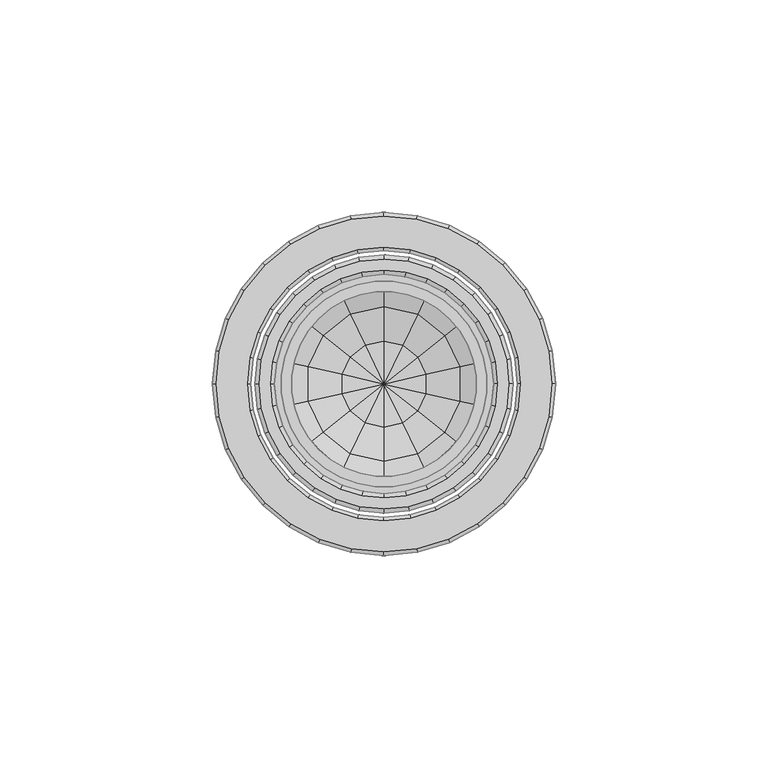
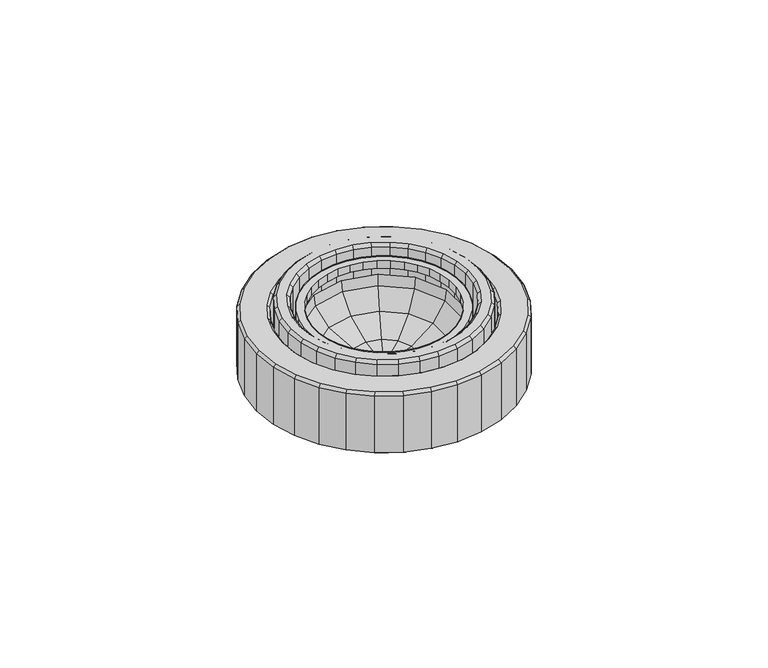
"""IFC4 building model written with IfcOpenShell, lengths in millimetres: light fixture geometry, adsdsdsasdadas : نور وابسته به سطح مخروط."""

from ifc_helpers import new_model, si_unit, origin, place, context, project, spatial, triangles, source, transform, mapped, element, save


def light_fixture_a992c653(model_context):
    return source(origin(), model_context, "Body", "Tessellation", [
        triangles([(24.1398555, -2.1117299, 15.5273052), (24.1398555, 0.0, 15.5273052), (24.1398555, 0.0, 18.0161346), (24.1398555, -2.1117299, 18.0161346), (23.4059724, -6.2713734, 15.5273052), (23.4059724, -6.2713734, 18.0161346), (21.9614095, -10.239569, 15.5273052), (21.9614095, -10.239569, 18.0161346), (19.8467793, -13.8973867, 15.5273052), (19.8467793, -13.8973867, 18.0161346), (17.1374994, -17.1316999, 15.5273052), (17.1374994, -17.1316999, 18.0161346), (13.9002865, -19.8467793, 15.5273052), (13.9002865, -19.8467793, 18.0161346), (10.2424694, -21.9585111, 15.5273052), (10.2424694, -21.9585111, 18.0161346), (6.2742731, -23.4030726, 15.5273052), (6.2742731, -23.4030726, 18.0161346), (2.1146295, -24.1369557, 15.5273052), (2.1146295, -24.1369557, 18.0161346), (-2.1088303, -24.1369557, 15.5273052), (-2.1088303, -24.1369557, 18.0161346), (-6.2713747, -23.4030726, 15.5273052), (-6.2713747, -23.4030726, 18.0161346), (-10.2395703, -21.9585111, 15.5273052), (-10.2395703, -21.9585111, 18.0161346), (-13.8944883, -19.8467793, 15.5273052), (-13.8944883, -19.8467793, 18.0161346), (-17.1345996, -17.1316999, 15.5273052), (-17.1345996, -17.1316999, 18.0161346), (-19.8438796, -13.8973867, 15.5273052), (-19.8438796, -13.8973867, 18.0161346), (-21.9585124, -10.239569, 15.5273052), (-21.9585124, -10.239569, 18.0161346), (-23.4030739, -6.2713734, 15.5273052), (-23.4030739, -6.2713734, 18.0161346), (-24.136957, -2.1117299, 15.5273052), (-24.136957, -2.1117299, 18.0161346), (-24.136957, 0.0, 15.5273052), (-24.136957, 0.0, 18.0161346), (-24.136957, 2.1117301, 15.5273052), (-24.136957, 2.1117301, 18.0161346), (-23.4030739, 6.2713734, 15.5273052), (-23.4030739, 6.2713734, 18.0161346), (-21.9585124, 10.239569, 15.5273052), (-21.9585124, 10.239569, 18.0161346), (-19.8438796, 13.8973867, 15.5273052), (-19.8438796, 13.8973867, 18.0161346), (-17.1345996, 17.1345983, 15.5273052), (-17.1345996, 17.1345983, 18.0161346), (-13.8944883, 19.8496817, 15.5273052), (-13.8944883, 19.8496817, 18.0161346), (-10.2395703, 21.9614108, 15.5273052), (-10.2395703, 21.9614108, 18.0161346), (-6.2713747, 23.4059737, 15.5273052), (-6.2713747, 23.4059737, 18.0161346), (-2.1088303, 24.1369557, 15.5273052), (-2.1088303, 24.1369557, 18.0161346), (2.1146295, 24.1369557, 15.5273052), (2.1146295, 24.1369557, 18.0161346), (6.2742731, 23.4059737, 15.5273052), (6.2742731, 23.4059737, 18.0161346), (10.2424694, 21.9614108, 15.5273052), (10.2424694, 21.9614108, 18.0161346), (13.9002865, 19.8496817, 15.5273052), (13.9002865, 19.8496817, 18.0161346), (17.1374994, 17.1345983, 15.5273052), (17.1374994, 17.1345983, 18.0161346), (19.8467793, 13.8973867, 15.5273052), (19.8467793, 13.8973867, 18.0161346), (21.9614095, 10.239569, 15.5273052), (21.9614095, 10.239569, 18.0161346), (23.4059724, 6.2713734, 15.5273052), (23.4059724, 6.2713734, 18.0161346), (24.1398555, 2.1117301, 15.5273052), (24.1398555, 2.1117301, 18.0161346), (-21.7206503, -1.8999767, 15.5273052), (-21.7206503, 0.0, 15.5273052), (-21.7206503, 0.0, 18.0161346), (-21.7206503, -1.8999767, 18.0161346), (-21.0621874, -5.6448163, 15.5273052), (-21.0621874, -5.6448163, 18.0161346), (-19.7626599, -9.2156123, 15.5273052), (-19.7626599, -9.2156123, 18.0161346), (-17.8597835, -12.5079391, 15.5273052), (-17.8597835, -12.5079391, 18.0161346), (-15.4173697, -15.4202695, 15.5273052), (-15.4173697, -15.4202695, 18.0161346), (-12.5079391, -17.8626832, 15.5273052), (-12.5079391, -17.8626832, 18.0161346), (-9.2156136, -19.7626586, 15.5273052), (-9.2156136, -19.7626586, 18.0161346), (-5.6419169, -21.062186, 15.5273052), (-5.6419169, -21.062186, 18.0161346), (-1.8999779, -21.7235514, 15.5273052), (-1.8999779, -21.7235514, 18.0161346), (1.9028763, -21.7235514, 15.5273052), (1.9028763, -21.7235514, 18.0161346), (5.6477161, -21.062186, 15.5273052), (5.6477161, -21.062186, 18.0161346), (9.2156117, -19.7626586, 15.5273052), (9.2156117, -19.7626586, 18.0161346), (12.5108389, -17.8626832, 15.5273052), (12.5108389, -17.8626832, 18.0161346), (15.4231692, -15.4202695, 15.5273052), (15.4231692, -15.4202695, 18.0161346), (17.8655817, -12.5079391, 15.5273052), (17.8655817, -12.5079391, 18.0161346), (19.7655584, -9.2156123, 15.5273052), (19.7655584, -9.2156123, 18.0161346), (21.0621847, -5.6448163, 15.5273052), (21.0621847, -5.6448163, 18.0161346), (21.7264512, -1.8999767, 15.5273052), (21.7264512, -1.8999767, 18.0161346), (21.7264512, 0.0, 15.5273052), (21.7264512, 0.0, 18.0161346), (21.7264512, 1.8999767, 15.5273052), (21.7264512, 1.8999767, 18.0161346), (21.0621847, 5.6448163, 15.5273052), (21.0621847, 5.6448163, 18.0161346), (19.7655584, 9.2156123, 15.5273052), (19.7655584, 9.2156123, 18.0161346), (17.8655817, 12.5079391, 15.5273052), (17.8655817, 12.5079391, 18.0161346), (15.4231692, 15.4202695, 15.5273052), (15.4231692, 15.4202695, 18.0161346), (12.5108389, 17.8626832, 15.5273052), (12.5108389, 17.8626832, 18.0161346), (9.2156117, 19.7655597, 15.5273052), (9.2156117, 19.7655597, 18.0161346), (5.6477161, 21.0650858, 15.5273052), (5.6477161, 21.0650858, 18.0161346), (1.9028763, 21.7235514, 15.5273052), (1.9028763, 21.7235514, 18.0161346), (-1.8999779, 21.7235514, 15.5273052), (-1.8999779, 21.7235514, 18.0161346), (-5.6419169, 21.0650858, 15.5273052), (-5.6419169, 21.0650858, 18.0161346), (-9.2156136, 19.7655597, 15.5273052), (-9.2156136, 19.7655597, 18.0161346), (-12.5079391, 17.8626832, 15.5273052), (-12.5079391, 17.8626832, 18.0161346), (-15.4173697, 15.4202695, 15.5273052), (-15.4173697, 15.4202695, 18.0161346), (-17.8597835, 12.5079391, 15.5273052), (-17.8597835, 12.5079391, 18.0161346), (-19.7626599, 9.2156123, 15.5273052), (-19.7626599, 9.2156123, 18.0161346), (-21.0621874, 5.6448163, 15.5273052), (-21.0621874, 5.6448163, 18.0161346), (-21.7206503, 1.8999767, 15.5273052), (-21.7206503, 1.8999767, 18.0161346), (0.0028996, -30.3909285, 19.8175815), (0.0028996, -30.3909285, -3.0895647), (5.9319875, -29.8078804, -3.0895647), (5.9319875, -29.8078804, 19.8175815), (0.0028996, -25.799073, -3.0895647), (0.0028996, -25.799073, 19.8175815), (5.0356628, -25.3030493, 19.8175815), (5.0356628, -25.3030493, -3.0895647), (0.0028996, -26.7795214, 20.7950988), (0.0028996, -29.4133812, 20.7950988), (5.7405394, -28.8477396, 20.7950988), (5.2271105, -26.2660912, 20.7950988), (11.6319177, -28.0790462, -3.0895647), (11.6319177, -28.0790462, 19.8175815), (9.8740766, -23.8352805, 19.8175815), (9.8740766, -23.8352805, -3.0895647), (11.2577234, -27.1740179, 20.7950988), (10.2511713, -24.7403087, 20.7950988), (16.888037, -25.2711427, -3.0895647), (16.888037, -25.2711427, 19.8175815), (14.3353955, -21.4508817, 19.8175815), (14.3353955, -21.4508817, -3.0895647), (16.3426989, -24.4560374, 20.7950988), (14.8807336, -22.2659871, 20.7950988), (21.4914915, -21.4914929, -3.0895647), (21.4914915, -21.4914929, 19.8175815), (18.2455781, -18.242677, 19.8175815), (18.2455781, -18.242677, -3.0895647), (20.7982183, -20.7982196, 20.7950988), (18.9388513, -18.9359529, 20.7950988), (25.2711414, -16.8851359, -3.0895647), (25.2711414, -16.8851359, 19.8175815), (21.4537828, -14.332497, 19.8175815), (21.4537828, -14.332497, -3.0895647), (24.456036, -16.3398005, 20.7950988), (22.2688869, -14.8778338, 20.7950988), (28.0819459, -11.631919, -3.0895647), (28.0819459, -11.631919, 19.8175815), (23.8381802, -9.8740779, 19.8175815), (23.8381802, -9.8740779, -3.0895647), (27.1740166, -11.254825, 20.7950988), (24.7432085, -10.2482715, 20.7950988), (29.8107775, -5.9290877, -3.0895647), (29.8107775, -5.9290877, 19.8175815), (25.3059491, -5.032763, 19.8175815), (25.3059491, -5.032763, -3.0895647), (28.8477383, -5.7376396, 20.7950988), (26.2660899, -5.2242108, 20.7950988), (30.393823, 0.0, -3.0895647), (30.393823, 0.0, 19.8175815), (25.8019728, 0.0, 19.8175815), (25.8019728, 0.0, -3.0895647), (29.4133826, 0.0, 20.7950988), (26.7824212, 0.0, 20.7950988), (29.8107775, 5.9290877, -3.0895647), (29.8107775, 5.9290877, 19.8175815), (25.3059491, 5.032763, 19.8175815), (25.3059491, 5.032763, -3.0895647), (28.8477383, 5.7376396, 20.7950988), (26.2660899, 5.2242108, 20.7950988), (28.0819459, 11.631919, -3.0895647), (28.0819459, 11.631919, 19.8175815), (23.8381802, 9.8740779, 19.8175815), (23.8381802, 9.8740779, -3.0895647), (27.1740166, 11.254825, 20.7950988), (24.7432085, 10.2482715, 20.7950988), (25.2711414, 16.8851359, -3.0895647), (25.2711414, 16.8851359, 19.8175815), (21.4537828, 14.332497, 19.8175815), (21.4537828, 14.332497, -3.0895647), (24.456036, 16.3398005, 20.7950988), (22.2688869, 14.8778338, 20.7950988), (21.4914915, 21.4914929, -3.0895647), (21.4914915, 21.4914929, 19.8175815), (18.2455781, 18.242677, 19.8175815), (18.2455781, 18.242677, -3.0895647), (20.7982183, 20.7982196, 20.7950988), (18.9388513, 18.9359529, 20.7950988), (16.888037, 25.2711427, -3.0895647), (16.888037, 25.2711427, 19.8175815), (14.3353955, 21.4508817, 19.8175815), (14.3353955, 21.4508817, -3.0895647), (16.3426989, 24.4560374, 20.7950988), (14.8807336, 22.2659871, 20.7950988), (11.6319177, 28.0790462, -3.0895647), (11.6319177, 28.0790462, 19.8175815), (9.8740766, 23.8352805, 19.8175815), (9.8740766, 23.8352805, -3.0895647), (11.2577234, 27.1740179, 20.7950988), (10.2511713, 24.7403087, 20.7950988), (5.9319875, 29.8078804, -3.0895647), (5.9319875, 29.8078804, 19.8175815), (5.0356628, 25.3030493, 19.8175815), (5.0356628, 25.3030493, -3.0895647), (5.7405394, 28.8477396, 20.7950988), (5.2271105, 26.2660912, 20.7950988), (0.0028996, 30.3938243, -3.0895647), (0.0028996, 30.3938243, 19.8175815), (0.0028996, 25.799073, 19.8175815), (0.0028996, 25.799073, -3.0895647), (0.0028996, 29.4133812, 20.7950988), (0.0028996, 26.7795214, 20.7950988), (-5.9261879, 29.8078804, -3.0895647), (-5.9261879, 29.8078804, 19.8175815), (-5.032764, 25.3030493, 19.8175815), (-5.032764, 25.3030493, -3.0895647), (-5.7347399, 28.8477396, 20.7950988), (-5.2213117, 26.2660912, 20.7950988), (-11.6290192, 28.0790462, -3.0895647), (-11.6290192, 28.0790462, 19.8175815), (-9.8711782, 23.8352805, 19.8175815), (-9.8711782, 23.8352805, -3.0895647), (-11.254825, 27.1740179, 20.7950988), (-10.2453718, 24.7403087, 20.7950988), (-16.8822375, 25.2711427, -3.0895647), (-16.8822375, 25.2711427, 19.8175815), (-14.3324984, 21.4508817, 19.8175815), (-14.3324984, 21.4508817, -3.0895647), (-16.3398018, 24.4560374, 20.7950988), (-14.8749327, 22.2659871, 20.7950988), (-21.4885944, 21.4914929, -3.0895647), (-21.4885944, 21.4914929, 19.8175815), (-18.2426783, 18.242677, 19.8175815), (-18.2426783, 18.242677, -3.0895647), (-20.7953185, 20.7982196, 20.7950988), (-18.9330518, 18.9359529, 20.7950988), (-25.268243, 16.8851359, -3.0895647), (-25.268243, 16.8851359, 19.8175815), (-21.450883, 14.332497, 19.8175815), (-21.450883, 14.332497, -3.0895647), (-24.4531376, 16.3398005, 20.7950988), (-22.2659884, 14.8778338, 20.7950988), (-28.0761464, 11.631919, -3.0895647), (-28.0761464, 11.631919, 19.8175815), (-23.8352818, 9.8740779, 19.8175815), (-23.8352818, 9.8740779, -3.0895647), (-27.1711182, 11.254825, 20.7950988), (-24.7403101, 10.2482715, 20.7950988), (-29.8078817, 5.9290877, -3.0895647), (-29.8078817, 5.9290877, 19.8175815), (-25.3030506, 5.032763, 19.8175815), (-25.3030506, 5.032763, -3.0895647), (-28.8448398, 5.7376396, 20.7950988), (-26.2631915, 5.2242108, 20.7950988), (-30.3909299, 0.0, -3.0895647), (-30.3909299, 0.0, 19.8175815), (-25.7990744, 0.0, 19.8175815), (-25.7990744, 0.0, -3.0895647), (-29.4104815, 0.0, 20.7950988), (-26.7795201, 0.0, 20.7950988), (-29.8078817, -5.9290877, -3.0895647), (-29.8078817, -5.9290877, 19.8175815), (-25.3030506, -5.032763, 19.8175815), (-25.3030506, -5.032763, -3.0895647), (-28.8448398, -5.7376396, 20.7950988), (-26.2631915, -5.2242108, 20.7950988), (-28.0761464, -11.631919, -3.0895647), (-28.0761464, -11.631919, 19.8175815), (-23.8352818, -9.8740779, 19.8175815), (-23.8352818, -9.8740779, -3.0895647), (-27.1711182, -11.254825, 20.7950988), (-24.7403101, -10.2482715, 20.7950988), (-25.268243, -16.8851359, -3.0895647), (-25.268243, -16.8851359, 19.8175815), (-21.450883, -14.332497, 19.8175815), (-21.450883, -14.332497, -3.0895647), (-24.4531376, -16.3398005, 20.7950988), (-22.2659884, -14.8778338, 20.7950988), (-21.4885944, -21.4914929, -3.0895647), (-21.4885944, -21.4914929, 19.8175815), (-18.2426783, -18.242677, 19.8175815), (-18.2426783, -18.242677, -3.0895647), (-20.7953185, -20.7982196, 20.7950988), (-18.9330518, -18.9359529, 20.7950988), (-16.8822375, -25.2711427, -3.0895647), (-16.8822375, -25.2711427, 19.8175815), (-14.3324984, -21.4508817, 19.8175815), (-14.3324984, -21.4508817, -3.0895647), (-16.3398018, -24.4560374, 20.7950988), (-14.8749327, -22.2659871, 20.7950988), (-11.6290192, -28.0790462, -3.0895647), (-11.6290192, -28.0790462, 19.8175815), (-9.8711782, -23.8352805, 19.8175815), (-9.8711782, -23.8352805, -3.0895647), (-11.254825, -27.1740179, 20.7950988), (-10.2453718, -24.7403087, 20.7950988), (-5.9261879, -29.8078804, -3.0895647), (-5.9261879, -29.8078804, 19.8175815), (-5.032764, -25.3030493, 19.8175815), (-5.032764, -25.3030493, -3.0895647), (-5.7347399, -28.8477396, 20.7950988), (-5.2213117, -26.2660912, 20.7950988), (-1.1e-06, -40.4071408, 16.2642607), (-1.1e-06, -40.4071408, -2.6717357), (7.8841777, -39.6326453, -2.6717357), (7.8841777, -39.6326453, 16.2642607), (-1.1e-06, -39.5311207, -3.0895647), (-1.1e-06, -32.2009824, -3.0895647), (6.2829757, -31.583124, -3.0895647), (7.7130338, -38.7711279, -3.0895647), (-1.1e-06, -31.3539652, -2.248152), (-1.1e-06, -31.3539652, 16.2642607), (6.117634, -30.7535158, 16.2642607), (6.117634, -30.7535158, -2.248152), (-1.1e-06, -32.2009824, 17.1083291), (-1.1e-06, -39.5311207, 17.1083291), (7.7130338, -38.7711279, 17.1083291), (6.2829757, -31.583124, 17.1083291), (15.4637791, -37.3323672, -2.6717357), (15.4637791, -37.3323672, 16.2642607), (12.3222912, -29.7498641, -3.0895647), (15.1272949, -36.523064, -3.0895647), (12.0003111, -28.966668, 16.2642607), (12.0003111, -28.966668, -2.248152), (15.1272949, -36.523064, 17.1083291), (12.3222912, -29.7498641, 17.1083291), (22.44873, -33.5991333, -2.6717357), (22.44873, -33.5991333, 16.2642607), (17.8916887, -26.7766177, -3.0895647), (21.9614095, -32.8681486, -3.0895647), (17.4188697, -26.0717427, 16.2642607), (17.4188697, -26.0717427, -2.248152), (21.9614095, -32.8681486, 17.1083291), (17.8916887, -26.7766177, 17.1083291), (28.5721701, -28.5721688, -2.6717357), (28.5721701, -28.5721688, 16.2642607), (22.7707127, -22.770714, -3.0895647), (27.9543143, -27.9514146, -3.0895647), (22.1702608, -22.1702621, 16.2642607), (22.1702608, -22.1702621, -2.248152), (27.9543143, -27.9514146, 17.1083291), (22.7707127, -22.770714, 17.1083291), (33.599132, -22.4487313, -2.6717357), (33.599132, -22.4487313, 16.2642607), (26.776619, -17.89169, -3.0895647), (32.8681473, -21.9614108, -3.0895647), (26.0717414, -17.418871, 16.2642607), (26.0717414, -17.418871, -2.248152), (32.8681473, -21.9614108, 17.1083291), (26.776619, -17.89169, 17.1083291), (37.3323659, -15.4637804, -2.6717357), (37.3323659, -15.4637804, 16.2642607), (29.7498628, -12.3222925, -3.0895647), (36.5230627, -15.1272962, -3.0895647), (28.9695677, -12.0003111, 16.2642607), (28.9695677, -12.0003111, -2.248152), (36.5230627, -15.1272962, 17.1083291), (29.7498628, -12.3222925, 17.1083291), (39.632644, -7.884179, -2.6717357), (39.632644, -7.884179, 16.2642607), (31.5831226, -6.2829764, -3.0895647), (38.7711266, -7.7130352, -3.0895647), (30.7535145, -6.1176347, 16.2642607), (30.7535145, -6.1176347, -2.248152), (38.7711266, -7.7130352, 17.1083291), (31.5831226, -6.2829764, 17.1083291), (40.4071395, 0.0, -2.6717357), (40.4071395, 0.0, 16.2642607), (32.2038822, 0.0, -3.0895647), (39.5311194, 0.0, -3.0895647), (31.3539665, 0.0, 16.2642607), (31.3539665, 0.0, -2.248152), (39.5311194, 0.0, 17.1083291), (32.2038822, 0.0, 17.1083291), (39.632644, 7.884179, -2.6717357), (39.632644, 7.884179, 16.2642607), (31.5831226, 6.2829764, -3.0895647), (38.7711266, 7.7130352, -3.0895647), (30.7535145, 6.1176347, 16.2642607), (30.7535145, 6.1176347, -2.248152), (38.7711266, 7.7130352, 17.1083291), (31.5831226, 6.2829764, 17.1083291), (37.3323659, 15.4637804, -2.6717357), (37.3323659, 15.4637804, 16.2642607), (29.7498628, 12.3222925, -3.0895647), (36.5230627, 15.1272962, -3.0895647), (28.9695677, 12.0003111, 16.2642607), (28.9695677, 12.0003111, -2.248152), (36.5230627, 15.1272962, 17.1083291), (29.7498628, 12.3222925, 17.1083291), (33.599132, 22.4487313, -2.6717357), (33.599132, 22.4487313, 16.2642607), (26.776619, 17.89169, -3.0895647), (32.8681473, 21.9614108, -3.0895647), (26.0717414, 17.418871, 16.2642607), (26.0717414, 17.418871, -2.248152), (32.8681473, 21.9614108, 17.1083291), (26.776619, 17.89169, 17.1083291), (28.5721701, 28.5721714, -2.6717357), (28.5721701, 28.5721714, 16.2642607), (22.7707127, 22.770714, -3.0895647), (27.9543143, 27.9543156, -3.0895647), (22.1702608, 22.1702621, 16.2642607), (22.1702608, 22.1702621, -2.248152), (27.9543143, 27.9543156, 17.1083291), (22.7707127, 22.770714, 17.1083291), (22.44873, 33.5991333, -2.6717357), (22.44873, 33.5991333, 16.2642607), (17.8916887, 26.7766203, -3.0895647), (21.9614095, 32.8681486, -3.0895647), (17.4188697, 26.0717427, 16.2642607), (17.4188697, 26.0717427, -2.248152), (21.9614095, 32.8681486, 17.1083291), (17.8916887, 26.7766203, 17.1083291), (15.4637791, 37.3323672, -2.6717357), (15.4637791, 37.3323672, 16.2642607), (12.3222912, 29.7527652, -3.0895647), (15.1272949, 36.523064, -3.0895647), (12.0003111, 28.969569, 16.2642607), (12.0003111, 28.969569, -2.248152), (15.1272949, 36.523064, 17.1083291), (12.3222912, 29.7527652, 17.1083291), (7.8841777, 39.6326453, -2.6717357), (7.8841777, 39.6326453, 16.2642607), (6.2829757, 31.583124, -3.0895647), (7.7130338, 38.7711279, -3.0895647), (6.117634, 30.7535158, 16.2642607), (6.117634, 30.7535158, -2.248152), (7.7130338, 38.7711279, 17.1083291), (6.2829757, 31.583124, 17.1083291), (-1.1e-06, 40.4071408, -2.6717357), (-1.1e-06, 40.4071408, 16.2642607), (-1.1e-06, 32.2038835, -3.0895647), (-1.1e-06, 39.5311207, -3.0895647), (-1.1e-06, 31.3539652, 16.2642607), (-1.1e-06, 31.3539652, -2.248152), (-1.1e-06, 39.5311207, 17.1083291), (-1.1e-06, 32.2038835, 17.1083291), (-7.8841796, 39.6326453, -2.6717357), (-7.8841796, 39.6326453, 16.2642607), (-6.2829777, 31.583124, -3.0895647), (-7.7130358, 38.7711279, -3.0895647), (-6.117636, 30.7535158, 16.2642607), (-6.117636, 30.7535158, -2.248152), (-7.7130358, 38.7711279, 17.1083291), (-6.2829777, 31.583124, 17.1083291), (-15.4637817, 37.3323672, -2.6717357), (-15.4637817, 37.3323672, 16.2642607), (-12.3222938, 29.7527652, -3.0895647), (-15.1272962, 36.523064, -3.0895647), (-12.0003124, 28.969569, 16.2642607), (-12.0003124, 28.969569, -2.248152), (-15.1272962, 36.523064, 17.1083291), (-12.3222938, 29.7527652, 17.1083291), (-22.4487326, 33.5991333, -2.6717357), (-22.4487326, 33.5991333, 16.2642607), (-17.8916914, 26.7766203, -3.0895647), (-21.9614121, 32.8681486, -3.0895647), (-17.4188723, 26.0717427, 16.2642607), (-17.4188723, 26.0717427, -2.248152), (-21.9614121, 32.8681486, 17.1083291), (-17.8916914, 26.7766203, 17.1083291), (-28.5721701, 28.5721714, -2.6717357), (-28.5721701, 28.5721714, 16.2642607), (-22.7707154, 22.770714, -3.0895647), (-27.954317, 27.9543156, -3.0895647), (-22.1702634, 22.1702621, 16.2642607), (-22.1702634, 22.1702621, -2.248152), (-27.954317, 27.9543156, 17.1083291), (-22.7707154, 22.770714, 17.1083291), (-33.5991346, 22.4487313, -2.6717357), (-33.5991346, 22.4487313, 16.2642607), (-26.776619, 17.89169, -3.0895647), (-32.8681499, 21.9614108, -3.0895647), (-26.071744, 17.418871, 16.2642607), (-26.071744, 17.418871, -2.248152), (-32.8681499, 21.9614108, 17.1083291), (-26.776619, 17.89169, 17.1083291), (-37.3323686, 15.4637804, -2.6717357), (-37.3323686, 15.4637804, 16.2642607), (-29.7498654, 12.3222925, -3.0895647), (-36.5230653, 15.1272962, -3.0895647), (-28.9695704, 12.0003111, 16.2642607), (-28.9695704, 12.0003111, -2.248152), (-36.5230653, 15.1272962, 17.1083291), (-29.7498654, 12.3222925, 17.1083291), (-39.6326466, 7.884179, -2.6717357), (-39.6326466, 7.884179, 16.2642607), (-31.5831253, 6.2829764, -3.0895647), (-38.7711293, 7.7130352, -3.0895647), (-30.7535172, 6.1176347, 16.2642607), (-30.7535172, 6.1176347, -2.248152), (-38.7711293, 7.7130352, 17.1083291), (-31.5831253, 6.2829764, 17.1083291), (-40.4071395, 0.0, -2.6717357), (-40.4071395, 0.0, 16.2642607), (-32.2038822, 0.0, -3.0895647), (-39.5311221, 0.0, -3.0895647), (-31.3539665, 0.0, 16.2642607), (-31.3539665, 0.0, -2.248152), (-39.5311221, 0.0, 17.1083291), (-32.2038822, 0.0, 17.1083291), (-39.6326466, -7.884179, -2.6717357), (-39.6326466, -7.884179, 16.2642607), (-31.5831253, -6.2829764, -3.0895647), (-38.7711293, -7.7130352, -3.0895647), (-30.7535172, -6.1176347, 16.2642607), (-30.7535172, -6.1176347, -2.248152), (-38.7711293, -7.7130352, 17.1083291), (-31.5831253, -6.2829764, 17.1083291), (-37.3323686, -15.4637804, -2.6717357), (-37.3323686, -15.4637804, 16.2642607), (-29.7498654, -12.3222925, -3.0895647), (-36.5230653, -15.1272962, -3.0895647), (-28.9695704, -12.0003111, 16.2642607), (-28.9695704, -12.0003111, -2.248152), (-36.5230653, -15.1272962, 17.1083291), (-29.7498654, -12.3222925, 17.1083291), (-33.5991346, -22.4487313, -2.6717357), (-33.5991346, -22.4487313, 16.2642607), (-26.776619, -17.89169, -3.0895647), (-32.8681499, -21.9614108, -3.0895647), (-26.071744, -17.418871, 16.2642607), (-26.071744, -17.418871, -2.248152), (-32.8681499, -21.9614108, 17.1083291), (-26.776619, -17.89169, 17.1083291), (-28.5721701, -28.5721688, -2.6717357), (-28.5721701, -28.5721688, 16.2642607), (-22.7707154, -22.770714, -3.0895647), (-27.954317, -27.9514146, -3.0895647), (-22.1702634, -22.1702621, 16.2642607), (-22.1702634, -22.1702621, -2.248152), (-27.954317, -27.9514146, 17.1083291), (-22.7707154, -22.770714, 17.1083291), (-22.4487326, -33.5991333, -2.6717357), (-22.4487326, -33.5991333, 16.2642607), (-17.8916914, -26.7766177, -3.0895647), (-21.9614121, -32.8681486, -3.0895647), (-17.4188723, -26.0717427, 16.2642607), (-17.4188723, -26.0717427, -2.248152), (-21.9614121, -32.8681486, 17.1083291), (-17.8916914, -26.7766177, 17.1083291), (-15.4637817, -37.3323672, -2.6717357), (-15.4637817, -37.3323672, 16.2642607), (-12.3222938, -29.7498641, -3.0895647), (-15.1272962, -36.523064, -3.0895647), (-12.0003124, -28.966668, 16.2642607), (-12.0003124, -28.966668, -2.248152), (-15.1272962, -36.523064, 17.1083291), (-12.3222938, -29.7498641, 17.1083291), (-7.8841796, -39.6326453, -2.6717357), (-7.8841796, -39.6326453, 16.2642607), (-6.2829777, -31.583124, -3.0895647), (-7.7130358, -38.7711279, -3.0895647), (-6.117636, -30.7535158, 16.2642607), (-6.117636, -30.7535158, -2.248152), (-7.7130358, -38.7711279, 17.1083291), (-6.2829777, -31.583124, 17.1083291)], [[1, 2, 3], [1, 3, 4], [5, 1, 4], [5, 4, 6], [7, 5, 6], [7, 6, 8], [9, 7, 8], [9, 8, 10], [11, 9, 10], [11, 10, 12], [13, 11, 12], [13, 12, 14], [15, 13, 14], [15, 14, 16], [17, 15, 16], [17, 16, 18], [19, 17, 18], [19, 18, 20], [21, 19, 20], [21, 20, 22], [23, 21, 22], [23, 22, 24], [25, 23, 24], [25, 24, 26], [27, 25, 26], [27, 26, 28], [29, 27, 28], [29, 28, 30], [31, 29, 30], [31, 30, 32], [33, 31, 32], [33, 32, 34], [35, 33, 34], [35, 34, 36], [37, 35, 36], [37, 36, 38], [39, 37, 38], [39, 38, 40], [41, 39, 40], [41, 40, 42], [43, 41, 42], [43, 42, 44], [45, 43, 44], [45, 44, 46], [47, 45, 46], [47, 46, 48], [49, 47, 48], [49, 48, 50], [51, 49, 50], [51, 50, 52], [53, 51, 52], [53, 52, 54], [55, 53, 54], [55, 54, 56], [57, 55, 56], [57, 56, 58], [59, 57, 58], [59, 58, 60], [61, 59, 60], [61, 60, 62], [63, 61, 62], [63, 62, 64], [65, 63, 64], [65, 64, 66], [67, 65, 66], [67, 66, 68], [69, 67, 68], [69, 68, 70], [71, 69, 70], [71, 70, 72], [73, 71, 72], [73, 72, 74], [75, 73, 74], [75, 74, 76], [2, 75, 76], [2, 76, 3], [77, 78, 79], [77, 79, 80], [81, 77, 80], [81, 80, 82], [83, 81, 82], [83, 82, 84], [85, 83, 84], [85, 84, 86], [87, 85, 86], [87, 86, 88], [89, 87, 88], [89, 88, 90], [91, 89, 90], [91, 90, 92], [93, 91, 92], [93, 92, 94], [95, 93, 94], [95, 94, 96], [97, 95, 96], [97, 96, 98], [99, 97, 98], [99, 98, 100], [101, 99, 100], [101, 100, 102], [103, 101, 102], [103, 102, 104], [105, 103, 104], [105, 104, 106], [107, 105, 106], [107, 106, 108], [109, 107, 108], [109, 108, 110], [111, 109, 110], [111, 110, 112], [113, 111, 112], [113, 112, 114], [115, 113, 114], [115, 114, 116], [117, 115, 116], [117, 116, 118], [119, 117, 118], [119, 118, 120], [121, 119, 120], [121, 120, 122], [123, 121, 122], [123, 122, 124], [125, 123, 124], [125, 124, 126], [127, 125, 126], [127, 126, 128], [129, 127, 128], [129, 128, 130], [131, 129, 130], [131, 130, 132], [133, 131, 132], [133, 132, 134], [135, 133, 134], [135, 134, 136], [137, 135, 136], [137, 136, 138], [139, 137, 138], [139, 138, 140], [141, 139, 140], [141, 140, 142], [143, 141, 142], [143, 142, 144], [145, 143, 144], [145, 144, 146], [147, 145, 146], [147, 146, 148], [149, 147, 148], [149, 148, 150], [151, 149, 150], [151, 150, 152], [78, 151, 152], [78, 152, 79], [6, 4, 76], [6, 76, 74], [8, 6, 74], [8, 74, 72], [114, 10, 8], [114, 8, 72], [118, 114, 72], [118, 72, 70], [120, 118, 70], [120, 70, 122], [122, 70, 124], [70, 68, 124], [126, 124, 68], [126, 68, 66], [128, 126, 66], [128, 66, 64], [130, 128, 64], [130, 64, 62], [132, 130, 62], [132, 62, 60], [134, 132, 60], [134, 60, 58], [136, 134, 58], [136, 58, 138], [138, 58, 56], [138, 56, 140], [140, 56, 54], [140, 54, 142], [142, 54, 52], [142, 52, 144], [144, 52, 50], [144, 50, 146], [146, 50, 48], [146, 48, 148], [150, 148, 46], [148, 48, 46], [152, 150, 46], [152, 46, 34], [44, 42, 38], [44, 38, 36], [46, 44, 36], [46, 36, 34], [80, 152, 34], [80, 34, 82], [10, 114, 112], [10, 112, 110], [12, 10, 108], [10, 110, 108], [12, 108, 106], [12, 106, 14], [14, 106, 104], [14, 104, 16], [16, 104, 102], [16, 102, 18], [18, 102, 100], [18, 100, 20], [20, 100, 98], [20, 98, 22], [22, 98, 96], [22, 96, 94], [24, 22, 94], [24, 94, 92], [26, 24, 92], [26, 92, 90], [28, 26, 90], [28, 90, 88], [30, 28, 88], [30, 88, 86], [32, 30, 86], [32, 86, 84], [32, 84, 34], [84, 82, 34], [73, 75, 1], [73, 1, 5], [71, 73, 5], [71, 5, 7], [117, 69, 71], [117, 71, 7], [113, 117, 7], [113, 7, 9], [111, 113, 9], [111, 9, 109], [109, 9, 107], [9, 11, 107], [105, 107, 11], [105, 11, 13], [103, 105, 13], [103, 13, 15], [101, 103, 15], [101, 15, 17], [99, 101, 17], [99, 17, 19], [97, 99, 19], [97, 19, 21], [95, 97, 21], [95, 21, 93], [93, 21, 23], [93, 23, 91], [91, 23, 25], [91, 25, 89], [89, 25, 27], [89, 27, 87], [87, 27, 29], [87, 29, 85], [85, 29, 31], [85, 31, 83], [81, 83, 33], [83, 31, 33], [77, 81, 33], [77, 33, 45], [35, 37, 41], [35, 41, 43], [33, 35, 43], [33, 43, 45], [151, 77, 45], [151, 45, 149], [69, 117, 119], [69, 119, 121], [67, 69, 123], [69, 121, 123], [67, 123, 125], [67, 125, 65], [65, 125, 127], [65, 127, 63], [63, 127, 129], [63, 129, 61], [61, 129, 131], [61, 131, 59], [59, 131, 133], [59, 133, 57], [57, 133, 135], [57, 135, 137], [55, 57, 137], [55, 137, 139], [53, 55, 139], [53, 139, 141], [51, 53, 141], [51, 141, 143], [49, 51, 143], [49, 143, 145], [47, 49, 145], [47, 145, 147], [47, 147, 45], [147, 149, 45], [153, 154, 155], [153, 155, 156], [157, 158, 159], [157, 159, 160], [161, 162, 163], [161, 163, 164], [156, 155, 165], [156, 165, 166], [160, 159, 167], [160, 167, 168], [164, 163, 169], [164, 169, 170], [166, 165, 171], [166, 171, 172], [168, 167, 173], [168, 173, 174], [170, 169, 175], [170, 175, 176], [172, 171, 177], [172, 177, 178], [174, 173, 179], [174, 179, 180], [176, 175, 181], [176, 181, 182], [178, 177, 183], [178, 183, 184], [180, 179, 185], [180, 185, 186], [182, 181, 187], [182, 187, 188], [184, 183, 189], [184, 189, 190], [186, 185, 191], [186, 191, 192], [188, 187, 193], [188, 193, 194], [190, 189, 195], [190, 195, 196], [192, 191, 197], [192, 197, 198], [194, 193, 199], [194, 199, 200], [196, 195, 201], [196, 201, 202], [198, 197, 203], [198, 203, 204], [200, 199, 205], [200, 205, 206], [202, 201, 207], [202, 207, 208], [204, 203, 209], [204, 209, 210], [206, 205, 211], [206, 211, 212], [208, 207, 213], [208, 213, 214], [210, 209, 215], [210, 215, 216], [212, 211, 217], [212, 217, 218], [214, 213, 219], [214, 219, 220], [216, 215, 221], [216, 221, 222], [218, 217, 223], [218, 223, 224], [220, 219, 225], [220, 225, 226], [222, 221, 227], [222, 227, 228], [224, 223, 229], [224, 229, 230], [226, 225, 231], [226, 231, 232], [228, 227, 233], [228, 233, 234], [230, 229, 235], [230, 235, 236], [232, 231, 237], [232, 237, 238], [234, 233, 239], [234, 239, 240], [236, 235, 241], [236, 241, 242], [238, 237, 243], [238, 243, 244], [240, 239, 245], [240, 245, 246], [242, 241, 247], [242, 247, 248], [244, 243, 249], [244, 249, 250], [246, 245, 251], [246, 251, 252], [248, 247, 253], [248, 253, 254], [250, 249, 255], [250, 255, 256], [252, 251, 257], [252, 257, 258], [254, 253, 259], [254, 259, 260], [256, 255, 261], [256, 261, 262], [258, 257, 263], [258, 263, 264], [260, 259, 265], [260, 265, 266], [262, 261, 267], [262, 267, 268], [264, 263, 269], [264, 269, 270], [266, 265, 271], [266, 271, 272], [268, 267, 273], [268, 273, 274], [270, 269, 275], [270, 275, 276], [272, 271, 277], [272, 277, 278], [274, 273, 279], [274, 279, 280], [276, 275, 281], [276, 281, 282], [278, 277, 283], [278, 283, 284], [280, 279, 285], [280, 285, 286], [282, 281, 287], [282, 287, 288], [284, 283, 289], [284, 289, 290], [286, 285, 291], [286, 291, 292], [288, 287, 293], [288, 293, 294], [290, 289, 295], [290, 295, 296], [292, 291, 297], [292, 297, 298], [294, 293, 299], [294, 299, 300], [296, 295, 301], [296, 301, 302], [298, 297, 303], [298, 303, 304], [300, 299, 305], [300, 305, 306], [302, 301, 307], [302, 307, 308], [304, 303, 309], [304, 309, 310], [306, 305, 311], [306, 311, 312], [308, 307, 313], [308, 313, 314], [310, 309, 315], [310, 315, 316], [312, 311, 317], [312, 317, 318], [314, 313, 319], [314, 319, 320], [316, 315, 321], [316, 321, 322], [318, 317, 323], [318, 323, 324], [320, 319, 325], [320, 325, 326], [322, 321, 327], [322, 327, 328], [324, 323, 329], [324, 329, 330], [326, 325, 331], [326, 331, 332], [328, 327, 333], [328, 333, 334], [330, 329, 335], [330, 335, 336], [332, 331, 337], [332, 337, 338], [334, 333, 339], [334, 339, 340], [336, 335, 341], [336, 341, 342], [338, 337, 343], [338, 343, 344], [340, 339, 154], [340, 154, 153], [342, 341, 158], [342, 158, 157], [344, 343, 162], [344, 162, 161], [168, 174, 157], [174, 180, 157], [180, 186, 192], [180, 192, 204], [192, 198, 204], [204, 210, 216], [204, 216, 228], [216, 222, 228], [228, 234, 240], [228, 240, 252], [240, 246, 252], [204, 228, 252], [204, 252, 157], [252, 258, 264], [252, 264, 276], [264, 270, 276], [276, 282, 288], [276, 288, 300], [288, 294, 300], [252, 276, 300], [252, 300, 157], [300, 306, 312], [300, 312, 324], [312, 318, 324], [324, 330, 336], [324, 336, 157], [336, 342, 157], [300, 324, 157], [180, 204, 157], [160, 168, 157], [339, 333, 155], [333, 327, 155], [327, 321, 315], [327, 315, 303], [315, 309, 303], [303, 297, 291], [303, 291, 279], [291, 285, 279], [279, 273, 267], [279, 267, 255], [267, 261, 255], [303, 279, 255], [303, 255, 155], [255, 249, 243], [255, 243, 231], [243, 237, 231], [231, 225, 219], [231, 219, 207], [219, 213, 207], [255, 231, 207], [255, 207, 155], [207, 201, 195], [207, 195, 183], [195, 189, 183], [183, 177, 171], [183, 171, 155], [171, 165, 155], [207, 183, 155], [327, 303, 155], [154, 339, 155], [345, 346, 347], [345, 347, 348], [349, 350, 351], [349, 351, 352], [353, 354, 355], [353, 355, 356], [357, 358, 359], [357, 359, 360], [348, 347, 361], [348, 361, 362], [352, 351, 363], [352, 363, 364], [356, 355, 365], [356, 365, 366], [360, 359, 367], [360, 367, 368], [362, 361, 369], [362, 369, 370], [364, 363, 371], [364, 371, 372], [366, 365, 373], [366, 373, 374], [368, 367, 375], [368, 375, 376], [370, 369, 377], [370, 377, 378], [372, 371, 379], [372, 379, 380], [374, 373, 381], [374, 381, 382], [376, 375, 383], [376, 383, 384], [378, 377, 385], [378, 385, 386], [380, 379, 387], [380, 387, 388], [382, 381, 389], [382, 389, 390], [384, 383, 391], [384, 391, 392], [386, 385, 393], [386, 393, 394], [388, 387, 395], [388, 395, 396], [390, 389, 397], [390, 397, 398], [392, 391, 399], [392, 399, 400], [394, 393, 401], [394, 401, 402], [396, 395, 403], [396, 403, 404], [398, 397, 405], [398, 405, 406], [400, 399, 407], [400, 407, 408], [402, 401, 409], [402, 409, 410], [404, 403, 411], [404, 411, 412], [406, 405, 413], [406, 413, 414], [408, 407, 415], [408, 415, 416], [410, 409, 417], [410, 417, 418], [412, 411, 419], [412, 419, 420], [414, 413, 421], [414, 421, 422], [416, 415, 423], [416, 423, 424], [418, 417, 425], [418, 425, 426], [420, 419, 427], [420, 427, 428], [422, 421, 429], [422, 429, 430], [424, 423, 431], [424, 431, 432], [426, 425, 433], [426, 433, 434], [428, 427, 435], [428, 435, 436], [430, 429, 437], [430, 437, 438], [432, 431, 439], [432, 439, 440], [434, 433, 441], [434, 441, 442], [436, 435, 443], [436, 443, 444], [438, 437, 445], [438, 445, 446], [440, 439, 447], [440, 447, 448], [442, 441, 449], [442, 449, 450], [444, 443, 451], [444, 451, 452], [446, 445, 453], [446, 453, 454], [448, 447, 455], [448, 455, 456], [450, 449, 457], [450, 457, 458], [452, 451, 459], [452, 459, 460], [454, 453, 461], [454, 461, 462], [456, 455, 463], [456, 463, 464], [458, 457, 465], [458, 465, 466], [460, 459, 467], [460, 467, 468], [462, 461, 469], [462, 469, 470], [464, 463, 471], [464, 471, 472], [466, 465, 473], [466, 473, 474], [468, 467, 475], [468, 475, 476], [470, 469, 477], [470, 477, 478], [472, 471, 479], [472, 479, 480], [474, 473, 481], [474, 481, 482], [476, 475, 483], [476, 483, 484], [478, 477, 485], [478, 485, 486], [480, 479, 487], [480, 487, 488], [482, 481, 489], [482, 489, 490], [484, 483, 491], [484, 491, 492], [486, 485, 493], [486, 493, 494], [488, 487, 495], [488, 495, 496], [490, 489, 497], [490, 497, 498], [492, 491, 499], [492, 499, 500], [494, 493, 501], [494, 501, 502], [496, 495, 503], [496, 503, 504], [498, 497, 505], [498, 505, 506], [500, 499, 507], [500, 507, 508], [502, 501, 509], [502, 509, 510], [504, 503, 511], [504, 511, 512], [506, 505, 513], [506, 513, 514], [508, 507, 515], [508, 515, 516], [510, 509, 517], [510, 517, 518], [512, 511, 519], [512, 519, 520], [514, 513, 521], [514, 521, 522], [516, 515, 523], [516, 523, 524], [518, 517, 525], [518, 525, 526], [520, 519, 527], [520, 527, 528], [522, 521, 529], [522, 529, 530], [524, 523, 531], [524, 531, 532], [526, 525, 533], [526, 533, 534], [528, 527, 535], [528, 535, 536], [530, 529, 537], [530, 537, 538], [532, 531, 539], [532, 539, 540], [534, 533, 541], [534, 541, 542], [536, 535, 543], [536, 543, 544], [538, 537, 545], [538, 545, 546], [540, 539, 547], [540, 547, 548], [542, 541, 549], [542, 549, 550], [544, 543, 551], [544, 551, 552], [546, 545, 553], [546, 553, 554], [548, 547, 555], [548, 555, 556], [550, 549, 557], [550, 557, 558], [552, 551, 559], [552, 559, 560], [554, 553, 561], [554, 561, 562], [556, 555, 563], [556, 563, 564], [558, 557, 565], [558, 565, 566], [560, 559, 567], [560, 567, 568], [562, 561, 569], [562, 569, 570], [564, 563, 571], [564, 571, 572], [566, 565, 573], [566, 573, 574], [568, 567, 575], [568, 575, 576], [570, 569, 577], [570, 577, 578], [572, 571, 579], [572, 579, 580], [574, 573, 581], [574, 581, 582], [576, 575, 583], [576, 583, 584], [578, 577, 585], [578, 585, 586], [580, 579, 587], [580, 587, 588], [582, 581, 589], [582, 589, 590], [584, 583, 591], [584, 591, 592], [586, 585, 593], [586, 593, 594], [588, 587, 595], [588, 595, 596], [590, 589, 597], [590, 597, 598], [592, 591, 599], [592, 599, 600], [594, 593, 346], [594, 346, 345], [596, 595, 350], [596, 350, 349], [598, 597, 354], [598, 354, 353], [600, 599, 358], [600, 358, 357], [348, 359, 358], [348, 358, 345], [346, 349, 352], [346, 352, 347], [350, 353, 356], [350, 356, 351], [354, 357, 360], [354, 360, 355], [362, 367, 359], [362, 359, 348], [347, 352, 364], [347, 364, 361], [351, 356, 366], [351, 366, 363], [355, 360, 368], [355, 368, 365], [370, 375, 367], [370, 367, 362], [361, 364, 372], [361, 372, 369], [363, 366, 374], [363, 374, 371], [365, 368, 376], [365, 376, 373], [378, 383, 375], [378, 375, 370], [369, 372, 380], [369, 380, 377], [371, 374, 382], [371, 382, 379], [373, 376, 384], [373, 384, 381], [386, 391, 383], [386, 383, 378], [377, 380, 388], [377, 388, 385], [379, 382, 390], [379, 390, 387], [381, 384, 392], [381, 392, 389], [394, 399, 391], [394, 391, 386], [385, 388, 396], [385, 396, 393], [387, 390, 398], [387, 398, 395], [389, 392, 400], [389, 400, 397], [402, 407, 399], [402, 399, 394], [393, 396, 404], [393, 404, 401], [395, 398, 406], [395, 406, 403], [397, 400, 408], [397, 408, 405], [410, 415, 407], [410, 407, 402], [401, 404, 412], [401, 412, 409], [403, 406, 414], [403, 414, 411], [405, 408, 416], [405, 416, 413], [418, 423, 415], [418, 415, 410], [409, 412, 420], [409, 420, 417], [411, 414, 422], [411, 422, 419], [413, 416, 424], [413, 424, 421], [426, 431, 423], [426, 423, 418], [417, 420, 428], [417, 428, 425], [419, 422, 430], [419, 430, 427], [421, 424, 432], [421, 432, 429], [434, 439, 431], [434, 431, 426], [425, 428, 436], [425, 436, 433], [427, 430, 438], [427, 438, 435], [429, 432, 440], [429, 440, 437], [442, 447, 439], [442, 439, 434], [433, 436, 444], [433, 444, 441], [435, 438, 446], [435, 446, 443], [437, 440, 448], [437, 448, 445], [450, 455, 447], [450, 447, 442], [441, 444, 452], [441, 452, 449], [443, 446, 454], [443, 454, 451], [445, 448, 456], [445, 456, 453], [458, 463, 455], [458, 455, 450], [449, 452, 460], [449, 460, 457], [451, 454, 462], [451, 462, 459], [453, 456, 464], [453, 464, 461], [466, 471, 463], [466, 463, 458], [457, 460, 468], [457, 468, 465], [459, 462, 470], [459, 470, 467], [461, 464, 472], [461, 472, 469], [474, 479, 471], [474, 471, 466], [465, 468, 476], [465, 476, 473], [467, 470, 478], [467, 478, 475], [469, 472, 480], [469, 480, 477], [482, 487, 479], [482, 479, 474], [473, 476, 484], [473, 484, 481], [475, 478, 486], [475, 486, 483], [477, 480, 488], [477, 488, 485], [490, 495, 487], [490, 487, 482], [481, 484, 492], [481, 492, 489], [483, 486, 494], [483, 494, 491], [485, 488, 496], [485, 496, 493], [498, 503, 495], [498, 495, 490], [489, 492, 500], [489, 500, 497], [491, 494, 502], [491, 502, 499], [493, 496, 504], [493, 504, 501], [506, 511, 503], [506, 503, 498], [497, 500, 508], [497, 508, 505], [499, 502, 510], [499, 510, 507], [501, 504, 512], [501, 512, 509], [514, 519, 511], [514, 511, 506], [505, 508, 516], [505, 516, 513], [507, 510, 518], [507, 518, 515], [509, 512, 520], [509, 520, 517], [522, 527, 519], [522, 519, 514], [513, 516, 524], [513, 524, 521], [515, 518, 526], [515, 526, 523], [517, 520, 528], [517, 528, 525], [530, 535, 527], [530, 527, 522], [521, 524, 532], [521, 532, 529], [523, 526, 534], [523, 534, 531], [525, 528, 536], [525, 536, 533], [538, 543, 535], [538, 535, 530], [529, 532, 540], [529, 540, 537], [531, 534, 542], [531, 542, 539], [533, 536, 544], [533, 544, 541], [546, 551, 543], [546, 543, 538], [537, 540, 548], [537, 548, 545], [539, 542, 550], [539, 550, 547], [541, 544, 552], [541, 552, 549], [554, 559, 551], [554, 551, 546], [545, 548, 556], [545, 556, 553], [547, 550, 558], [547, 558, 555], [549, 552, 560], [549, 560, 557], [562, 567, 559], [562, 559, 554], [553, 556, 564], [553, 564, 561], [555, 558, 566], [555, 566, 563], [557, 560, 568], [557, 568, 565], [570, 575, 567], [570, 567, 562], [561, 564, 572], [561, 572, 569], [563, 566, 574], [563, 574, 571], [565, 568, 576], [565, 576, 573], [578, 583, 575], [578, 575, 570], [569, 572, 580], [569, 580, 577], [571, 574, 582], [571, 582, 579], [573, 576, 584], [573, 584, 581], [586, 591, 583], [586, 583, 578], [577, 580, 588], [577, 588, 585], [579, 582, 590], [579, 590, 587], [581, 584, 592], [581, 592, 589], [594, 599, 591], [594, 591, 586], [585, 588, 596], [585, 596, 593], [587, 590, 598], [587, 598, 595], [589, 592, 600], [589, 600, 597], [345, 358, 599], [345, 599, 594], [593, 596, 349], [593, 349, 346], [595, 598, 353], [595, 353, 350], [597, 600, 357], [597, 357, 354], [156, 163, 162], [156, 162, 153], [158, 161, 164], [158, 164, 159], [166, 169, 163], [166, 163, 156], [159, 164, 170], [159, 170, 167], [172, 175, 169], [172, 169, 166], [167, 170, 176], [167, 176, 173], [178, 181, 175], [178, 175, 172], [173, 176, 182], [173, 182, 179], [184, 187, 181], [184, 181, 178], [179, 182, 188], [179, 188, 185], [190, 193, 187], [190, 187, 184], [185, 188, 194], [185, 194, 191], [196, 199, 193], [196, 193, 190], [191, 194, 200], [191, 200, 197], [202, 205, 199], [202, 199, 196], [197, 200, 206], [197, 206, 203], [208, 211, 205], [208, 205, 202], [203, 206, 212], [203, 212, 209], [214, 217, 211], [214, 211, 208], [209, 212, 218], [209, 218, 215], [220, 223, 217], [220, 217, 214], [215, 218, 224], [215, 224, 221], [226, 229, 223], [226, 223, 220], [221, 224, 230], [221, 230, 227], [232, 235, 229], [232, 229, 226], [227, 230, 236], [227, 236, 233], [238, 241, 235], [238, 235, 232], [233, 236, 242], [233, 242, 239], [244, 247, 241], [244, 241, 238], [239, 242, 248], [239, 248, 245], [250, 253, 247], [250, 247, 244], [245, 248, 254], [245, 254, 251], [256, 259, 253], [256, 253, 250], [251, 254, 260], [251, 260, 257], [262, 265, 259], [262, 259, 256], [257, 260, 266], [257, 266, 263], [268, 271, 265], [268, 265, 262], [263, 266, 272], [263, 272, 269], [274, 277, 271], [274, 271, 268], [269, 272, 278], [269, 278, 275], [280, 283, 277], [280, 277, 274], [275, 278, 284], [275, 284, 281], [286, 289, 283], [286, 283, 280], [281, 284, 290], [281, 290, 287], [292, 295, 289], [292, 289, 286], [287, 290, 296], [287, 296, 293], [298, 301, 295], [298, 295, 292], [293, 296, 302], [293, 302, 299], [304, 307, 301], [304, 301, 298], [299, 302, 308], [299, 308, 305], [310, 313, 307], [310, 307, 304], [305, 308, 314], [305, 314, 311], [316, 319, 313], [316, 313, 310], [311, 314, 320], [311, 320, 317], [322, 325, 319], [322, 319, 316], [317, 320, 326], [317, 326, 323], [328, 331, 325], [328, 325, 322], [323, 326, 332], [323, 332, 329], [334, 337, 331], [334, 331, 328], [329, 332, 338], [329, 338, 335], [340, 343, 337], [340, 337, 334], [335, 338, 344], [335, 344, 341], [153, 162, 343], [153, 343, 340], [341, 344, 161], [341, 161, 158]], closed=False),
        triangles([(-1.1e-06, 0.0, -1.4244435), (-4.3917032, -9.1198879, -0.0842022), (-1.1e-06, -10.1235403, -0.0842022), (-7.9131865, -6.3119839, -0.0842022), (-9.8682778, -2.2538654, -0.0842022), (-9.8682778, 2.2538656, -0.0842022), (-7.9131865, 6.3119839, -0.0842022), (-4.3917032, 9.1198879, -0.0842022), (-1.1e-06, 10.1235403, -0.0842022), (4.3917009, 9.1198879, -0.0842022), (7.9160849, 6.3119839, -0.0842022), (9.8711755, 2.2538656, -0.0842022), (9.8711755, -2.2538654, -0.0842022), (7.9160849, -6.3119839, -0.0842022), (4.3917009, -9.1198879, -0.0842022), (-7.9131865, -16.4355255, 3.6691812), (-1.1e-06, -18.242677, 3.6691812), (-14.2599793, -11.3737547, 3.6691812), (-17.7843633, -4.0581181, 3.6691812), (-17.7843633, 4.0581184, 3.6691812), (-14.2599793, 11.3737547, 3.6691812), (-7.9131865, 16.4355255, 3.6691812), (-1.1e-06, 18.242677, 3.6691812), (7.9160849, 16.4355255, 3.6691812), (14.2628778, 11.3737547, 3.6691812), (17.784362, 4.0581184, 3.6691812), (17.784362, -4.0581181, 3.6691812), (14.2628778, -11.3737547, 3.6691812), (7.9160849, -16.4355255, 3.6691812), (-9.8682778, -20.493642, 9.0936606), (-1.1e-06, -22.747508, 9.0936606), (-17.7843633, -14.1816581, 9.0936606), (-22.1760669, -5.0617702, 9.0936606), (-22.1760669, 5.0617702, 9.0936606), (-17.7843633, 14.1816594, 9.0936606), (-9.8682778, 20.493642, 9.0936606), (-1.1e-06, 22.747508, 9.0936606), (9.8711755, 20.493642, 9.0936606), (17.784362, 14.1816594, 9.0936606), (22.1760655, 5.0617702, 9.0936606), (22.1760655, -5.0617702, 9.0936606), (17.784362, -14.1816581, 9.0936606), (9.8711755, -20.493642, 9.0936606), (-10.1177402, -21.0099732, 12.5310162), (-1.1e-06, -23.3189519, 12.5310162), (-18.2310753, -14.5384485, 12.5310162), (-22.7359077, -5.1894021, 12.5310162), (-22.7359077, 5.1894024, 12.5310162), (-18.2310753, 14.5413483, 12.5310162), (-10.1177402, 21.0099732, 12.5310162), (-1.1e-06, 23.3189519, 12.5310162), (10.1177382, 21.0099732, 12.5310162), (18.2339751, 14.5413483, 12.5310162), (22.7359051, 5.1894024, 12.5310162), (22.7359051, -5.1894021, 12.5310162), (18.2339751, -14.5384485, 12.5310162), (10.1177382, -21.0099732, 12.5310162)], [[1, 2, 3], [1, 4, 2], [1, 5, 4], [1, 6, 5], [1, 7, 6], [1, 8, 7], [1, 9, 8], [1, 10, 9], [1, 11, 10], [1, 12, 11], [1, 13, 12], [1, 14, 13], [1, 15, 14], [1, 3, 15], [16, 17, 3], [16, 3, 2], [18, 16, 2], [18, 2, 4], [19, 18, 4], [19, 4, 5], [20, 19, 5], [20, 5, 6], [21, 20, 6], [21, 6, 7], [22, 21, 7], [22, 7, 8], [23, 22, 8], [23, 8, 9], [24, 23, 9], [24, 9, 10], [25, 24, 10], [25, 10, 11], [26, 25, 11], [26, 11, 12], [27, 26, 12], [27, 12, 13], [28, 27, 13], [28, 13, 14], [29, 28, 14], [29, 14, 15], [17, 29, 15], [17, 15, 3], [30, 31, 17], [30, 17, 16], [32, 30, 16], [32, 16, 18], [33, 32, 18], [33, 18, 19], [34, 33, 19], [34, 19, 20], [35, 34, 20], [35, 20, 21], [36, 35, 21], [36, 21, 22], [37, 36, 22], [37, 22, 23], [38, 37, 23], [38, 23, 24], [39, 38, 24], [39, 24, 25], [40, 39, 25], [40, 25, 26], [41, 40, 26], [41, 26, 27], [42, 41, 27], [42, 27, 28], [43, 42, 28], [43, 28, 29], [31, 43, 29], [31, 29, 17], [44, 45, 30], [45, 31, 30], [46, 44, 32], [44, 30, 32], [47, 46, 33], [46, 32, 33], [48, 47, 34], [47, 33, 34], [49, 48, 35], [48, 34, 35], [50, 49, 36], [49, 35, 36], [51, 50, 37], [50, 36, 37], [52, 51, 38], [51, 37, 38], [53, 52, 39], [52, 38, 39], [54, 53, 40], [53, 39, 40], [55, 54, 41], [54, 40, 41], [56, 55, 42], [55, 41, 42], [57, 56, 43], [56, 42, 43], [45, 57, 31], [57, 43, 31]], closed=False),
    ])


if __name__ == "__main__":
    model = new_model("IFC4")
    model_context = context("Model", 3, world=origin())
    ifc_project = project(units=[si_unit("LENGTHUNIT", "METRE", prefix="MILLI")], contexts=[model_context])
    site = spatial("IfcSite", under=ifc_project)
    building = spatial("IfcBuilding", under=site)
    placement = place(None, origin())
    light_fixture_shape = light_fixture_a992c653(model_context)
    element("IfcLightFixture", 1, ObjectType="adsdsdsasdadas : نور وابسته به سطح مخروط", at=placement, inside=building, context=model_context, shape_type="MappedRepresentation", body=[
        mapped(light_fixture_shape, transform((0.0, 0.0, 0.0), x_axis=(1.0, 0.0, 0.0), y_axis=(0.0, 1.0, 0.0), z_axis=(0.0, 0.0, 1.0))),
    ])
    save(model, "model.ifc")
